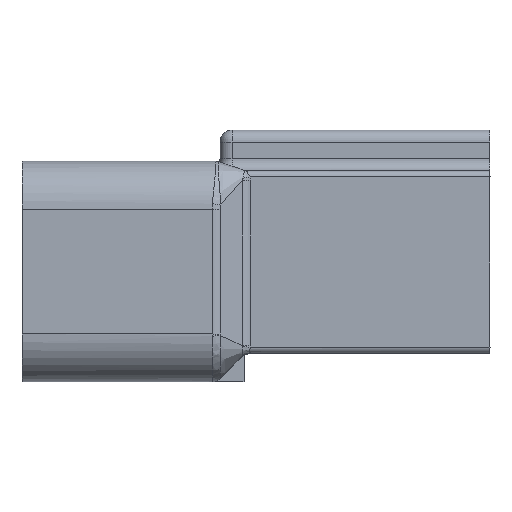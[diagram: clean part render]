
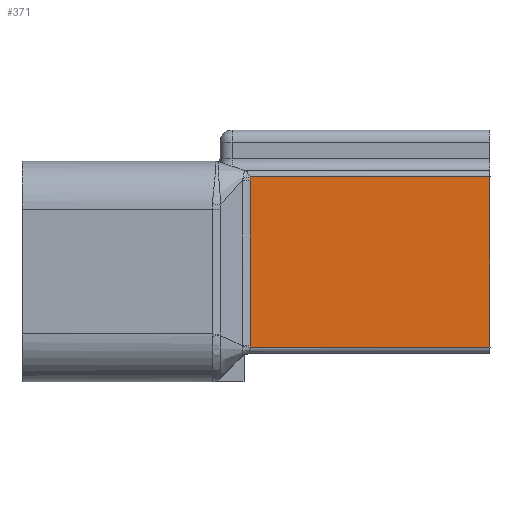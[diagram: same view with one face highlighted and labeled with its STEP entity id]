
A CAD part, front view. The second image highlights one B-rep face of the part: STEP entity #371.
In plain terms, the highlighted planar face has unit normal (0, -1, 0).
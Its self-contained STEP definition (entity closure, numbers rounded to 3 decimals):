
#286=CARTESIAN_POINT('Vertex',(22.,-4.55,-10.9)) ;
#289=CARTESIAN_POINT('Line Origine',(1.638,-4.55,-10.9)) ;
#293=CARTESIAN_POINT('Vertex',(2.028,-4.55,-10.9)) ;
#310=CARTESIAN_POINT('Axis2P3D Location',(1.638,-4.55,3.3)) ;
#315=CARTESIAN_POINT('Line Origine',(22.,-4.55,-3.8)) ;
#319=CARTESIAN_POINT('Vertex',(22.,-4.55,3.3)) ;
#322=CARTESIAN_POINT('Line Origine',(12.001,-4.55,3.3)) ;
#326=CARTESIAN_POINT('Vertex',(2.002,-4.55,3.3)) ;
#330=CARTESIAN_POINT('Control Point',(2.034,-4.55,2.975)) ;
#331=CARTESIAN_POINT('Control Point',(2.034,-4.55,2.983)) ;
#332=CARTESIAN_POINT('Control Point',(2.034,-4.55,2.99)) ;
#333=CARTESIAN_POINT('Control Point',(2.034,-4.55,2.996)) ;
#334=CARTESIAN_POINT('Control Point',(2.033,-4.55,3.065)) ;
#335=CARTESIAN_POINT('Control Point',(2.029,-4.55,3.132)) ;
#336=CARTESIAN_POINT('Control Point',(2.023,-4.55,3.19)) ;
#337=CARTESIAN_POINT('Control Point',(2.014,-4.55,3.246)) ;
#338=CARTESIAN_POINT('Control Point',(2.002,-4.55,3.3)) ;
#339=CARTESIAN_POINT('Vertex',(2.034,-4.55,2.975)) ;
#342=CARTESIAN_POINT('Line Origine',(2.034,-4.55,-3.896)) ;
#346=CARTESIAN_POINT('Vertex',(2.034,-4.55,-10.768)) ;
#350=CARTESIAN_POINT('Control Point',(2.028,-4.55,-10.9)) ;
#351=CARTESIAN_POINT('Control Point',(2.03,-4.55,-10.885)) ;
#352=CARTESIAN_POINT('Control Point',(2.031,-4.55,-10.869)) ;
#353=CARTESIAN_POINT('Control Point',(2.032,-4.55,-10.853)) ;
#354=CARTESIAN_POINT('Control Point',(2.033,-4.55,-10.832)) ;
#355=CARTESIAN_POINT('Control Point',(2.033,-4.55,-10.811)) ;
#356=CARTESIAN_POINT('Control Point',(2.033,-4.55,-10.806)) ;
#357=CARTESIAN_POINT('Control Point',(2.034,-4.55,-10.795)) ;
#358=CARTESIAN_POINT('Control Point',(2.034,-4.55,-10.784)) ;
#359=CARTESIAN_POINT('Control Point',(2.034,-4.55,-10.779)) ;
#360=CARTESIAN_POINT('Control Point',(2.034,-4.55,-10.773)) ;
#361=CARTESIAN_POINT('Control Point',(2.034,-4.55,-10.768)) ;
#290=DIRECTION('Vector Direction',(1.,0.,0.)) ;
#311=DIRECTION('Axis2P3D Direction',(0.,-1.,0.)) ;
#312=DIRECTION('Axis2P3D XDirection',(0.,0.,-1.)) ;
#316=DIRECTION('Vector Direction',(0.,0.,-1.)) ;
#323=DIRECTION('Vector Direction',(1.,0.,0.)) ;
#343=DIRECTION('Vector Direction',(0.,0.,-1.)) ;
#313=AXIS2_PLACEMENT_3D('Plane Axis2P3D',#310,#311,#312) ;
#364=ORIENTED_EDGE('',*,*,#295,.T.) ;
#365=ORIENTED_EDGE('',*,*,#321,.F.) ;
#366=ORIENTED_EDGE('',*,*,#328,.F.) ;
#367=ORIENTED_EDGE('',*,*,#341,.T.) ;
#368=ORIENTED_EDGE('',*,*,#348,.T.) ;
#369=ORIENTED_EDGE('',*,*,#362,.T.) ;
#291=VECTOR('Line Direction',#290,1.) ;
#317=VECTOR('Line Direction',#316,1.) ;
#324=VECTOR('Line Direction',#323,1.) ;
#344=VECTOR('Line Direction',#343,1.) ;
#371=ADVANCED_FACE('\X2\FF8AFF9FFF70FF82\X0\ \X2\FF8EFF9EFF83FF9EFF68FF70\X0\',(#370),#314,.T.) ;
#329=B_SPLINE_CURVE_WITH_KNOTS('',5,(#330,#331,#332,#333,#334,#335,#336,#337,#338),.UNSPECIFIED.,.F.,.U.,(6,3,6),(4.964,5.046,5.71),.UNSPECIFIED.) ;
#349=B_SPLINE_CURVE_WITH_KNOTS('',5,(#350,#351,#352,#353,#354,#355,#356,#357,#358,#359,#360,#361),.UNSPECIFIED.,.F.,.U.,(6,3,3,6),(7.277,7.478,7.547,7.616),.UNSPECIFIED.) ;
#295=EDGE_CURVE('',#294,#287,#292,.T.) ;
#321=EDGE_CURVE('',#320,#287,#318,.T.) ;
#328=EDGE_CURVE('',#327,#320,#325,.T.) ;
#341=EDGE_CURVE('',#327,#340,#329,.F.) ;
#348=EDGE_CURVE('',#340,#347,#345,.T.) ;
#362=EDGE_CURVE('',#347,#294,#349,.F.) ;
#363=EDGE_LOOP('',(#364,#365,#366,#367,#368,#369)) ;
#370=FACE_OUTER_BOUND('',#363,.T.) ;
#292=LINE('Line',#289,#291) ;
#318=LINE('Line',#315,#317) ;
#325=LINE('Line',#322,#324) ;
#345=LINE('Line',#342,#344) ;
#314=PLANE('',#313) ;
#287=VERTEX_POINT('',#286) ;
#294=VERTEX_POINT('',#293) ;
#320=VERTEX_POINT('',#319) ;
#327=VERTEX_POINT('',#326) ;
#340=VERTEX_POINT('',#339) ;
#347=VERTEX_POINT('',#346) ;
